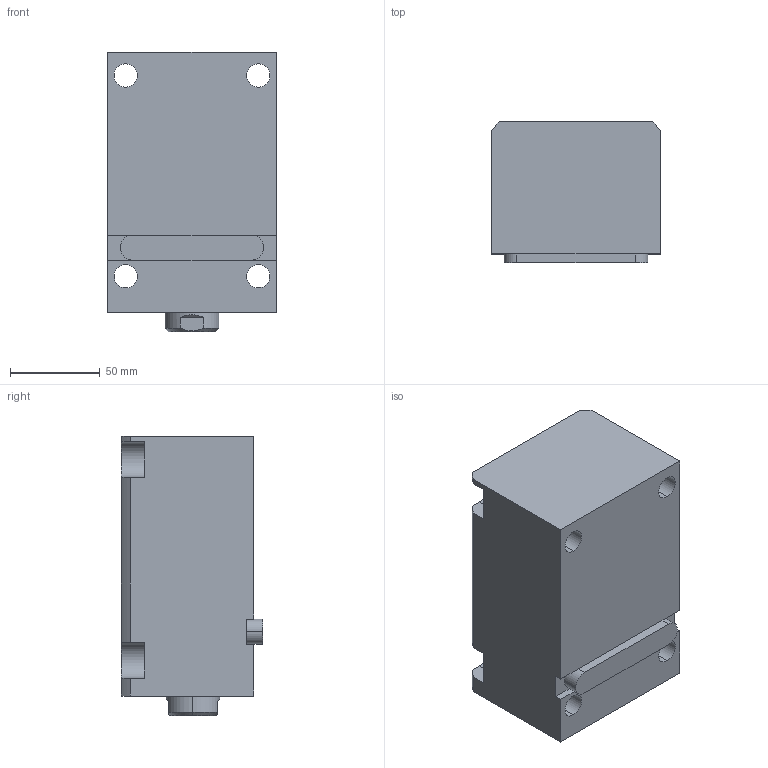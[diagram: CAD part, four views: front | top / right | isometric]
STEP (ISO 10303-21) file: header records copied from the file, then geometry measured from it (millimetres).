
FILE_DESCRIPTION (( 'STEP AP203' ), '1' );
FILE_NAME ('CHTB-LA50-85N.STEP', '2018-05-18T01:51:52', ( '' ), ( '' ), 'SwSTEP 2.0', 'SolidWorks 2015', '' );
FILE_SCHEMA (( 'CONFIG_CONTROL_DESIGN' ));
Length unit declared in the file: millimetre
Products named in the file (4): 掛极LA50-85N; CHTM-SDMA50QG; 活塞杆LA50-85N; CHTB-LA50-85N
Assembly tree (3 placements, depth 2):
  CHTB-LA50-85N
    掛极LA50-85N
    活塞杆LA50-85N
    CHTM-SDMA50QG
Bounding box: 94 x 79 x 156 mm (x, y, z)
Volume: 845068.8 mm3; surface area: 133062.9 mm2
Topology: 3 solids, 3 shells, 202 faces, 542 edges, 358 vertices
Faces by surface type: cylinder 96, plane 53, cone 23, torus 16, bspline 14
Entity records: 11255 total; most frequent: CARTESIAN_POINT 5992, ORIENTED_EDGE 1072, DIRECTION 958, EDGE_CURVE 536, AXIS2_PLACEMENT_3D 377, VERTEX_POINT 358, EDGE_LOOP 234, VECTOR 204
